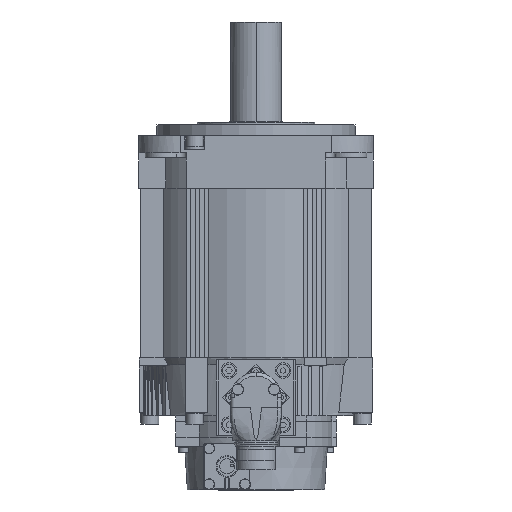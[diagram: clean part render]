
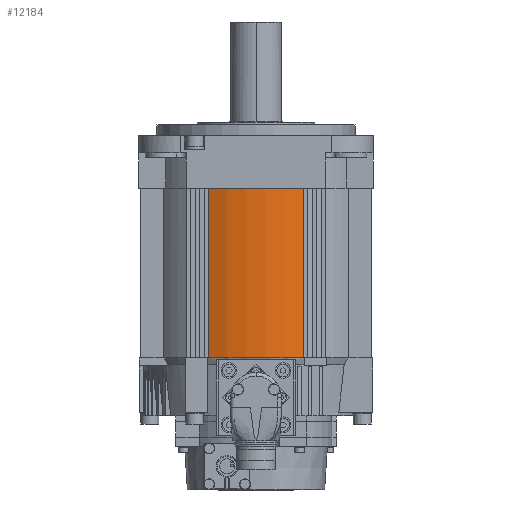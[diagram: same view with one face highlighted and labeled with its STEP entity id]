
A CAD part, front view. The second image highlights one B-rep face of the part: STEP entity #12184.
In plain terms, the highlighted cylindrical face has radius 64 mm (diameter 128 mm), a partial arc.
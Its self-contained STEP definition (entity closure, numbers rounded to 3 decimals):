
#11908 = EDGE_CURVE ( 'NONE', #11933, #11909, #21957, .T. ) ;
#11909 = VERTEX_POINT ( 'NONE', #21952 ) ;
#11933 = VERTEX_POINT ( 'NONE', #22011 ) ;
#12163 = EDGE_CURVE ( 'NONE', #12188, #12192, #22417, .T. ) ;
#12184 = ADVANCED_FACE ( 'NONE', ( #22501 ), #22500, .T. ) ;
#12185 = EDGE_LOOP ( 'NONE', ( #12186, #12189, #12190, #12193 ) ) ;
#12186 = ORIENTED_EDGE ( 'NONE', *, *, #12187, .F. ) ;
#12187 = EDGE_CURVE ( 'NONE', #11909, #12188, #22499, .T. ) ;
#12188 = VERTEX_POINT ( 'NONE', #22491 ) ;
#12189 = ORIENTED_EDGE ( 'NONE', *, *, #11908, .F. ) ;
#12190 = ORIENTED_EDGE ( 'NONE', *, *, #12191, .F. ) ;
#12191 = EDGE_CURVE ( 'NONE', #12192, #11933, #22490, .T. ) ;
#12192 = VERTEX_POINT ( 'NONE', #22486 ) ;
#12193 = ORIENTED_EDGE ( 'NONE', *, *, #12163, .F. ) ;
#21952 = CARTESIAN_POINT ( 'NONE',  ( -26.3, -58.346, -123. ) ) ;
#21953 = DIRECTION ( 'NONE',  ( 1., 0., 0. ) ) ;
#21954 = DIRECTION ( 'NONE',  ( 0., 0., -1. ) ) ;
#21955 = CARTESIAN_POINT ( 'NONE',  ( 0., 0., -123. ) ) ;
#21956 = AXIS2_PLACEMENT_3D ( 'NONE', #21955, #21954, #21953 ) ;
#21957 = CIRCLE ( 'NONE', #21956, 64. ) ;
#22011 = CARTESIAN_POINT ( 'NONE',  ( 26.3, -58.346, -123. ) ) ;
#22413 = DIRECTION ( 'NONE',  ( 1., 0., 0. ) ) ;
#22414 = DIRECTION ( 'NONE',  ( 0., 0., 1. ) ) ;
#22415 = CARTESIAN_POINT ( 'NONE',  ( 0., 0., -29. ) ) ;
#22416 = AXIS2_PLACEMENT_3D ( 'NONE', #22415, #22414, #22413 ) ;
#22417 = CIRCLE ( 'NONE', #22416, 64. ) ;
#22486 = CARTESIAN_POINT ( 'NONE',  ( 26.3, -58.346, -29. ) ) ;
#22487 = DIRECTION ( 'NONE',  ( 0., 0., -1. ) ) ;
#22488 = VECTOR ( 'NONE', #22487, 1000. ) ;
#22489 = CARTESIAN_POINT ( 'NONE',  ( 26.3, -58.346, -304.019 ) ) ;
#22490 = LINE ( 'NONE', #22489, #22488 ) ;
#22491 = CARTESIAN_POINT ( 'NONE',  ( -26.3, -58.346, -29. ) ) ;
#22492 = DIRECTION ( 'NONE',  ( 0., 0., 1. ) ) ;
#22493 = VECTOR ( 'NONE', #22492, 1000. ) ;
#22494 = CARTESIAN_POINT ( 'NONE',  ( -26.3, -58.346, -304.019 ) ) ;
#22495 = DIRECTION ( 'NONE',  ( 1., 0., 0. ) ) ;
#22496 = DIRECTION ( 'NONE',  ( 0., 0., 1. ) ) ;
#22497 = CARTESIAN_POINT ( 'NONE',  ( 0., 0., -304.019 ) ) ;
#22498 = AXIS2_PLACEMENT_3D ( 'NONE', #22497, #22496, #22495 ) ;
#22499 = LINE ( 'NONE', #22494, #22493 ) ;
#22500 = CYLINDRICAL_SURFACE ( 'NONE', #22498, 64. ) ;
#22501 = FACE_OUTER_BOUND ( 'NONE', #12185, .T. ) ;
